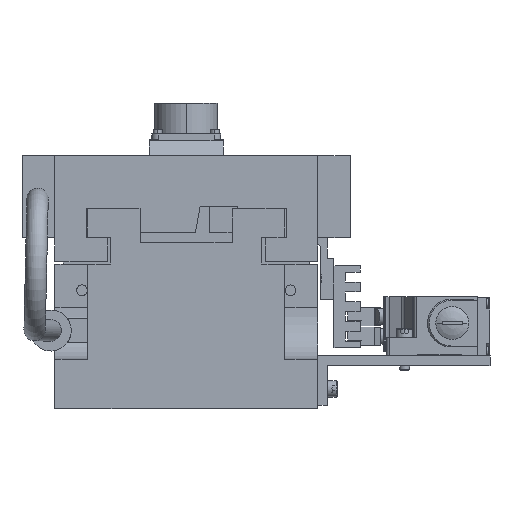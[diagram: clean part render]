
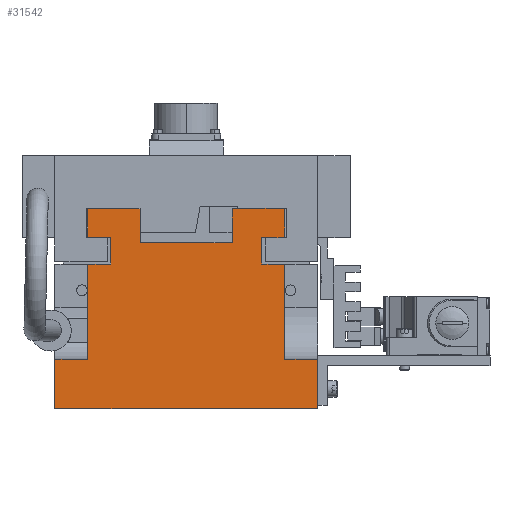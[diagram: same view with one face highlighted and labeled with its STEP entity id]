
A CAD part, front view. The second image highlights one B-rep face of the part: STEP entity #31542.
In plain terms, the highlighted planar face has unit normal (0, -1, 0).
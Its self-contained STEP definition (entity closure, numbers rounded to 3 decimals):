
#2005=CARTESIAN_POINT('',(92.605,-251.707,-24.285));
#2006=VERTEX_POINT('',#2005);
#2013=CARTESIAN_POINT('',(92.605,-251.707,-54.285));
#2014=VERTEX_POINT('',#2013);
#2015=CARTESIAN_POINT('',(92.605,-251.707,-24.285));
#2016=DIRECTION('',(0.0,0.0,-1.0));
#2017=VECTOR('',#2016,30.);
#2018=LINE('',#2015,#2017);
#2019=EDGE_CURVE('',#2006,#2014,#2018,.T.);
#28226=CARTESIAN_POINT('',(40.605,-251.707,46.715));
#28227=VERTEX_POINT('',#28226);
#28234=CARTESIAN_POINT('',(40.605,-251.707,66.715));
#28235=VERTEX_POINT('',#28234);
#28236=CARTESIAN_POINT('',(40.605,-251.707,46.715));
#28237=DIRECTION('',(0.0,0.0,1.0));
#28238=VECTOR('',#28237,20.0);
#28239=LINE('',#28236,#28238);
#28240=EDGE_CURVE('',#28227,#28235,#28239,.T.);
#28675=CARTESIAN_POINT('',(-15.395,-251.707,66.715));
#28676=VERTEX_POINT('',#28675);
#28683=CARTESIAN_POINT('',(-15.395,-251.707,46.715));
#28684=VERTEX_POINT('',#28683);
#28685=CARTESIAN_POINT('',(-15.395,-251.707,66.715));
#28686=DIRECTION('',(0.0,0.0,-1.0));
#28687=VECTOR('',#28686,20.0);
#28688=LINE('',#28685,#28687);
#28689=EDGE_CURVE('',#28676,#28684,#28688,.T.);
#30811=CARTESIAN_POINT('',(-46.395,-251.707,67.715));
#30812=VERTEX_POINT('',#30811);
#30819=CARTESIAN_POINT('',(-16.395,-251.707,67.715));
#30820=VERTEX_POINT('',#30819);
#30821=CARTESIAN_POINT('',(-46.395,-251.707,67.715));
#30822=DIRECTION('',(1.0,0.0,0.0));
#30823=VECTOR('',#30822,30.);
#30824=LINE('',#30821,#30823);
#30825=EDGE_CURVE('',#30812,#30820,#30824,.T.);
#31141=CARTESIAN_POINT('',(-47.395,-251.707,-24.285));
#31142=VERTEX_POINT('',#31141);
#31149=CARTESIAN_POINT('',(-47.395,-251.707,33.715));
#31150=VERTEX_POINT('',#31149);
#31151=CARTESIAN_POINT('',(-47.395,-251.707,33.715));
#31152=DIRECTION('',(0.0,0.0,-1.0));
#31153=VECTOR('',#31152,58.);
#31154=LINE('',#31151,#31153);
#31155=EDGE_CURVE('',#31150,#31142,#31154,.T.);
#31186=CARTESIAN_POINT('',(-67.395,-251.707,-24.285));
#31187=VERTEX_POINT('',#31186);
#31194=CARTESIAN_POINT('',(-47.395,-251.707,-24.285));
#31195=DIRECTION('',(-1.0,0.0,0.0));
#31196=VECTOR('',#31195,20.);
#31197=LINE('',#31194,#31196);
#31198=EDGE_CURVE('',#31142,#31187,#31197,.T.);
#31251=CARTESIAN_POINT('',(72.605,-251.707,-24.285));
#31252=VERTEX_POINT('',#31251);
#31259=CARTESIAN_POINT('',(92.605,-251.707,-24.285));
#31260=DIRECTION('',(-1.0,0.0,0.0));
#31261=VECTOR('',#31260,20.);
#31262=LINE('',#31259,#31261);
#31263=EDGE_CURVE('',#2006,#31252,#31262,.T.);
#31321=CARTESIAN_POINT('',(72.605,-251.707,33.715));
#31322=VERTEX_POINT('',#31321);
#31329=CARTESIAN_POINT('',(72.605,-251.707,-24.285));
#31330=DIRECTION('',(0.0,0.0,1.0));
#31331=VECTOR('',#31330,58.);
#31332=LINE('',#31329,#31331);
#31333=EDGE_CURVE('',#31252,#31322,#31332,.T.);
#31383=CARTESIAN_POINT('',(-67.395,-251.707,-54.285));
#31384=VERTEX_POINT('',#31383);
#31391=CARTESIAN_POINT('',(-67.395,-251.707,-54.285));
#31392=DIRECTION('',(0.0,0.0,1.0));
#31393=VECTOR('',#31392,30.);
#31394=LINE('',#31391,#31393);
#31395=EDGE_CURVE('',#31384,#31187,#31394,.T.);
#31400=CARTESIAN_POINT('',(12.605,-251.707,9.049));
#31401=DIRECTION('',(0.0,-1.0,0.0));
#31402=DIRECTION('',(1.0,0.0,0.0));
#31403=AXIS2_PLACEMENT_3D('',#31400,#31401,#31402);
#31404=PLANE('',#31403);
#31405=ORIENTED_EDGE('',*,*,#31155,.T.);
#31406=ORIENTED_EDGE('',*,*,#31198,.T.);
#31407=ORIENTED_EDGE('',*,*,#31395,.F.);
#31408=CARTESIAN_POINT('',(92.605,-251.707,-54.285));
#31409=DIRECTION('',(-1.0,0.0,0.0));
#31410=VECTOR('',#31409,160.0);
#31411=LINE('',#31408,#31410);
#31412=EDGE_CURVE('',#2014,#31384,#31411,.T.);
#31413=ORIENTED_EDGE('',*,*,#31412,.F.);
#31414=ORIENTED_EDGE('',*,*,#2019,.F.);
#31415=ORIENTED_EDGE('',*,*,#31263,.T.);
#31416=ORIENTED_EDGE('',*,*,#31333,.T.);
#31417=CARTESIAN_POINT('',(58.605,-251.707,33.715));
#31418=VERTEX_POINT('',#31417);
#31419=CARTESIAN_POINT('',(58.605,-251.707,33.715));
#31420=DIRECTION('',(1.0,0.0,0.0));
#31421=VECTOR('',#31420,14.0);
#31422=LINE('',#31419,#31421);
#31423=EDGE_CURVE('',#31418,#31322,#31422,.T.);
#31424=ORIENTED_EDGE('',*,*,#31423,.F.);
#31425=CARTESIAN_POINT('',(58.605,-251.707,49.715));
#31426=VERTEX_POINT('',#31425);
#31427=CARTESIAN_POINT('',(58.605,-251.707,49.715));
#31428=DIRECTION('',(0.0,0.0,-1.0));
#31429=VECTOR('',#31428,16.);
#31430=LINE('',#31427,#31429);
#31431=EDGE_CURVE('',#31426,#31418,#31430,.T.);
#31432=ORIENTED_EDGE('',*,*,#31431,.F.);
#31433=CARTESIAN_POINT('',(71.605,-251.707,49.715));
#31434=VERTEX_POINT('',#31433);
#31435=CARTESIAN_POINT('',(71.605,-251.707,49.715));
#31436=DIRECTION('',(-1.0,0.0,0.0));
#31437=VECTOR('',#31436,13.);
#31438=LINE('',#31435,#31437);
#31439=EDGE_CURVE('',#31434,#31426,#31438,.T.);
#31440=ORIENTED_EDGE('',*,*,#31439,.F.);
#31441=CARTESIAN_POINT('',(72.605,-251.707,50.715));
#31442=VERTEX_POINT('',#31441);
#31443=CARTESIAN_POINT('',(72.605,-251.707,50.715));
#31444=DIRECTION('',(-0.707,0.0,-0.707));
#31445=VECTOR('',#31444,1.414);
#31446=LINE('',#31443,#31445);
#31447=EDGE_CURVE('',#31442,#31434,#31446,.T.);
#31448=ORIENTED_EDGE('',*,*,#31447,.F.);
#31449=CARTESIAN_POINT('',(72.605,-251.707,66.715));
#31450=VERTEX_POINT('',#31449);
#31451=CARTESIAN_POINT('',(72.605,-251.707,66.715));
#31452=DIRECTION('',(0.0,0.0,-1.0));
#31453=VECTOR('',#31452,16.);
#31454=LINE('',#31451,#31453);
#31455=EDGE_CURVE('',#31450,#31442,#31454,.T.);
#31456=ORIENTED_EDGE('',*,*,#31455,.F.);
#31457=CARTESIAN_POINT('',(71.605,-251.707,67.715));
#31458=VERTEX_POINT('',#31457);
#31459=CARTESIAN_POINT('',(71.605,-251.707,67.715));
#31460=DIRECTION('',(0.707,0.0,-0.707));
#31461=VECTOR('',#31460,1.414);
#31462=LINE('',#31459,#31461);
#31463=EDGE_CURVE('',#31458,#31450,#31462,.T.);
#31464=ORIENTED_EDGE('',*,*,#31463,.F.);
#31465=CARTESIAN_POINT('',(41.605,-251.707,67.715));
#31466=VERTEX_POINT('',#31465);
#31467=CARTESIAN_POINT('',(41.605,-251.707,67.715));
#31468=DIRECTION('',(1.0,0.0,0.0));
#31469=VECTOR('',#31468,30.0);
#31470=LINE('',#31467,#31469);
#31471=EDGE_CURVE('',#31466,#31458,#31470,.T.);
#31472=ORIENTED_EDGE('',*,*,#31471,.F.);
#31473=CARTESIAN_POINT('',(40.605,-251.707,66.715));
#31474=DIRECTION('',(0.707,0.0,0.707));
#31475=VECTOR('',#31474,1.414);
#31476=LINE('',#31473,#31475);
#31477=EDGE_CURVE('',#28235,#31466,#31476,.T.);
#31478=ORIENTED_EDGE('',*,*,#31477,.F.);
#31479=ORIENTED_EDGE('',*,*,#28240,.F.);
#31480=CARTESIAN_POINT('',(-15.395,-251.707,46.715));
#31481=DIRECTION('',(1.0,0.0,0.0));
#31482=VECTOR('',#31481,56.0);
#31483=LINE('',#31480,#31482);
#31484=EDGE_CURVE('',#28684,#28227,#31483,.T.);
#31485=ORIENTED_EDGE('',*,*,#31484,.F.);
#31486=ORIENTED_EDGE('',*,*,#28689,.F.);
#31487=CARTESIAN_POINT('',(-16.395,-251.707,67.715));
#31488=DIRECTION('',(0.707,0.0,-0.707));
#31489=VECTOR('',#31488,1.414);
#31490=LINE('',#31487,#31489);
#31491=EDGE_CURVE('',#30820,#28676,#31490,.T.);
#31492=ORIENTED_EDGE('',*,*,#31491,.F.);
#31493=ORIENTED_EDGE('',*,*,#30825,.F.);
#31494=CARTESIAN_POINT('',(-47.395,-251.707,66.715));
#31495=VERTEX_POINT('',#31494);
#31496=CARTESIAN_POINT('',(-47.395,-251.707,66.715));
#31497=DIRECTION('',(0.707,0.0,0.707));
#31498=VECTOR('',#31497,1.414);
#31499=LINE('',#31496,#31498);
#31500=EDGE_CURVE('',#31495,#30812,#31499,.T.);
#31501=ORIENTED_EDGE('',*,*,#31500,.F.);
#31502=CARTESIAN_POINT('',(-47.395,-251.707,50.715));
#31503=VERTEX_POINT('',#31502);
#31504=CARTESIAN_POINT('',(-47.395,-251.707,50.715));
#31505=DIRECTION('',(0.0,0.0,1.0));
#31506=VECTOR('',#31505,16.);
#31507=LINE('',#31504,#31506);
#31508=EDGE_CURVE('',#31503,#31495,#31507,.T.);
#31509=ORIENTED_EDGE('',*,*,#31508,.F.);
#31510=CARTESIAN_POINT('',(-46.395,-251.707,49.715));
#31511=VERTEX_POINT('',#31510);
#31512=CARTESIAN_POINT('',(-46.395,-251.707,49.715));
#31513=DIRECTION('',(-0.707,0.0,0.707));
#31514=VECTOR('',#31513,1.414);
#31515=LINE('',#31512,#31514);
#31516=EDGE_CURVE('',#31511,#31503,#31515,.T.);
#31517=ORIENTED_EDGE('',*,*,#31516,.F.);
#31518=CARTESIAN_POINT('',(-33.395,-251.707,49.715));
#31519=VERTEX_POINT('',#31518);
#31520=CARTESIAN_POINT('',(-33.395,-251.707,49.715));
#31521=DIRECTION('',(-1.0,0.0,0.0));
#31522=VECTOR('',#31521,13.);
#31523=LINE('',#31520,#31522);
#31524=EDGE_CURVE('',#31519,#31511,#31523,.T.);
#31525=ORIENTED_EDGE('',*,*,#31524,.F.);
#31526=CARTESIAN_POINT('',(-33.395,-251.707,33.715));
#31527=VERTEX_POINT('',#31526);
#31528=CARTESIAN_POINT('',(-33.395,-251.707,33.715));
#31529=DIRECTION('',(0.0,0.0,1.0));
#31530=VECTOR('',#31529,16.);
#31531=LINE('',#31528,#31530);
#31532=EDGE_CURVE('',#31527,#31519,#31531,.T.);
#31533=ORIENTED_EDGE('',*,*,#31532,.F.);
#31534=CARTESIAN_POINT('',(-47.395,-251.707,33.715));
#31535=DIRECTION('',(1.0,0.0,0.0));
#31536=VECTOR('',#31535,14.);
#31537=LINE('',#31534,#31536);
#31538=EDGE_CURVE('',#31150,#31527,#31537,.T.);
#31539=ORIENTED_EDGE('',*,*,#31538,.F.);
#31540=EDGE_LOOP('',(#31405,#31406,#31407,#31413,#31414,#31415,#31416,#31424,#31432,#31440,#31448,#31456,#31464,#31472,#31478,#31479,#31485,#31486,#31492,#31493,#31501,#31509,#31517,#31525,#31533,#31539));
#31541=FACE_OUTER_BOUND('',#31540,.T.);
#31542=ADVANCED_FACE('',(#31541),#31404,.T.);
